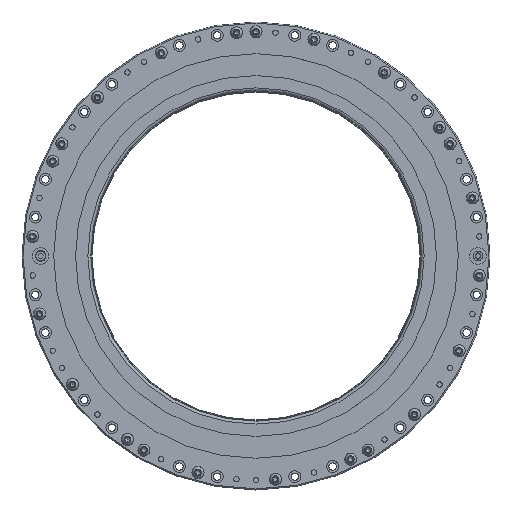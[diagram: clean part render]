
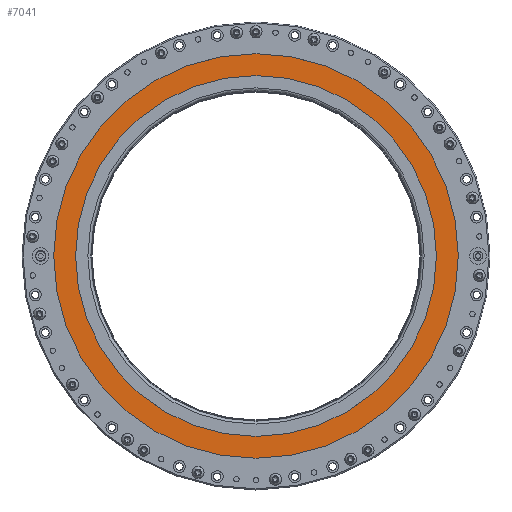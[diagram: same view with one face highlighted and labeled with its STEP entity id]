
A CAD part, top view. The second image highlights one B-rep face of the part: STEP entity #7041.
In plain terms, the highlighted planar face has unit normal (0, 0, 1) as drawn and (0, 0, -1) by its records, which use the part's own axes.
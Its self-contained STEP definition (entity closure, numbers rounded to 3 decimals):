
#489=PLANE('',#7585);
#728=CIRCLE('',#7586,165.);
#729=CIRCLE('',#7587,185.);
#1351=ORIENTED_EDGE('',*,*,#2316,.T.);
#1352=ORIENTED_EDGE('',*,*,#2317,.F.);
#2316=EDGE_CURVE('',#2861,#2861,#728,.T.);
#2317=EDGE_CURVE('',#2862,#2862,#729,.T.);
#2861=VERTEX_POINT('',#11023);
#2862=VERTEX_POINT('',#11025);
#3631=EDGE_LOOP('',(#1351));
#3632=EDGE_LOOP('',(#1352));
#4338=FACE_BOUND('',#3631,.T.);
#4339=FACE_BOUND('',#3632,.T.);
#7041=ADVANCED_FACE('',(#4338,#4339),#489,.F.);
#7585=AXIS2_PLACEMENT_3D('',#11021,#8686,#8687);
#7586=AXIS2_PLACEMENT_3D('',#11022,#8688,#8689);
#7587=AXIS2_PLACEMENT_3D('',#11024,#8690,#8691);
#8686=DIRECTION('',(0.,0.,1.));
#8687=DIRECTION('',(1.,0.,0.));
#8688=DIRECTION('',(0.,0.,1.));
#8689=DIRECTION('',(1.,0.,0.));
#8690=DIRECTION('',(0.,0.,1.));
#8691=DIRECTION('',(1.,0.,0.));
#11021=CARTESIAN_POINT('',(165.,0.,-10.5));
#11022=CARTESIAN_POINT('',(0.,0.,-10.5));
#11023=CARTESIAN_POINT('',(165.,0.,-10.5));
#11024=CARTESIAN_POINT('',(0.,0.,-10.5));
#11025=CARTESIAN_POINT('',(185.,0.,-10.5));
